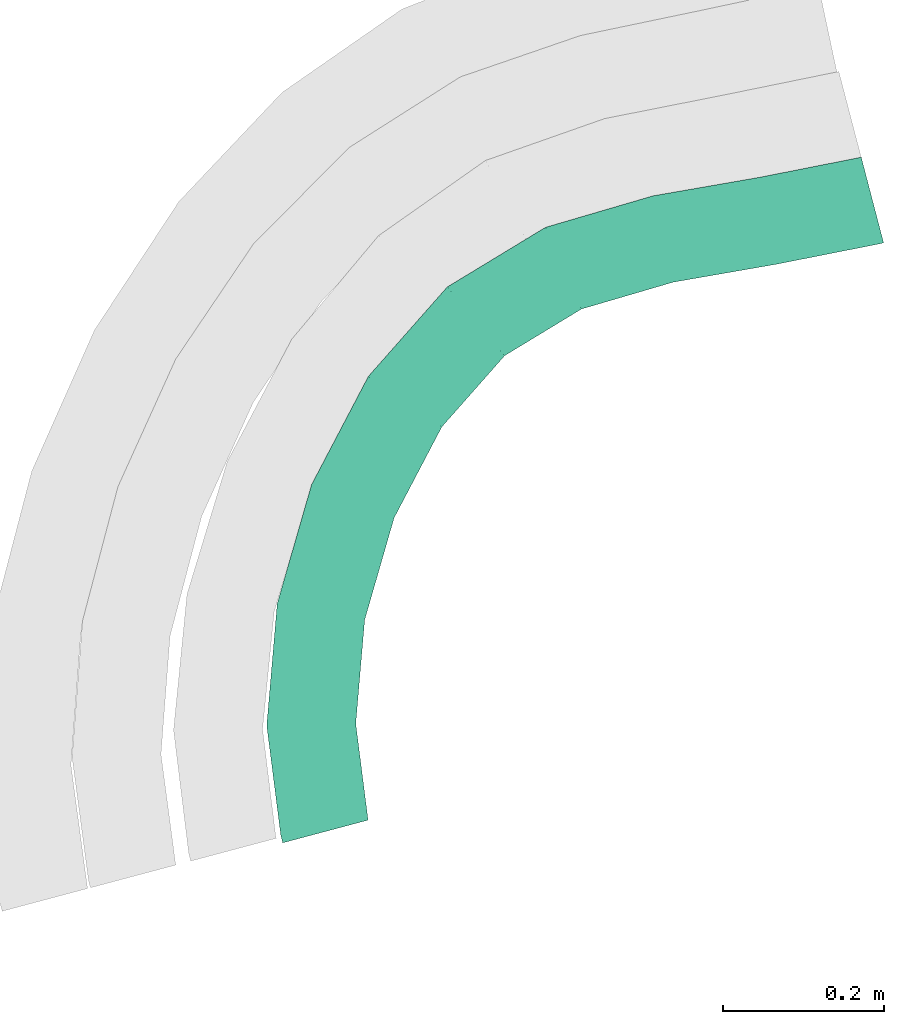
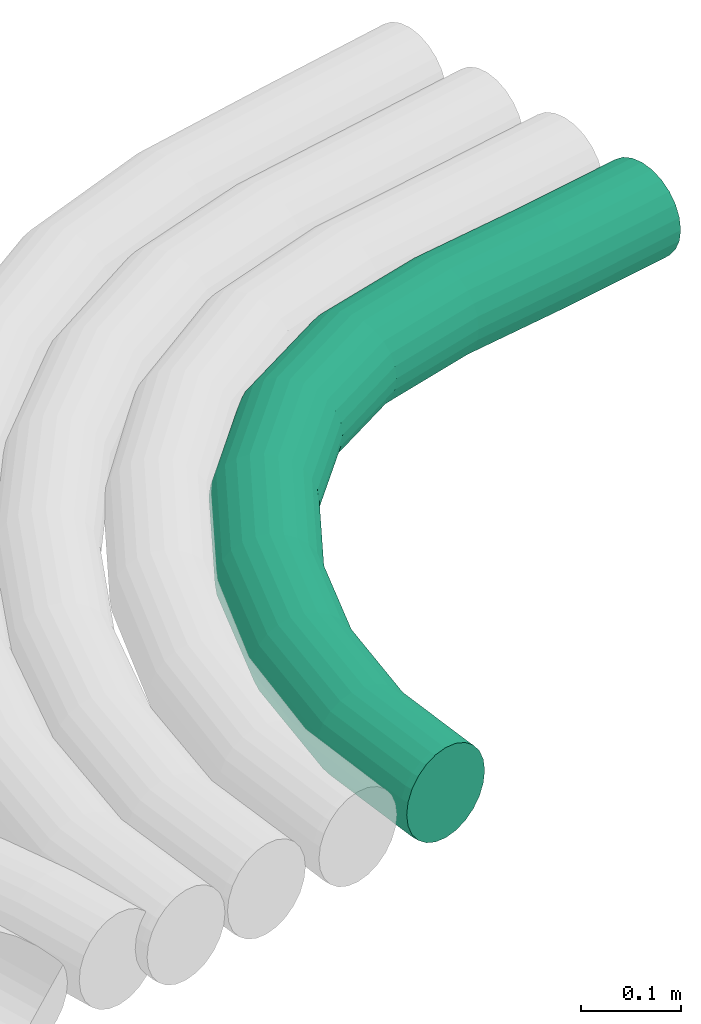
# One storey, part 3 of 6: 1 flow segment.
"""IFC2X3 building model written with IfcOpenShell, lengths in centimetres."""

from ifc_helpers import new_model, entity, si_unit, converted_unit, derived_unit, direction, frame, origin, place, context, subcontext, project, spatial, faceted_brep, type_object, element, save


model = new_model("IFC2X3")

# Units and contexts
model_context = context("Model", 3, precision=0.001, world=origin(), true_north=direction((6.12303176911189e-17, 1.0)))
body_context = subcontext(model_context, "Body", "Model", "MODEL_VIEW")
ifc_project = project(units=[si_unit("LENGTHUNIT", "METRE", prefix="CENTI"), si_unit("AREAUNIT", "SQUARE_METRE"), si_unit("VOLUMEUNIT", "CUBIC_METRE"), converted_unit("PLANEANGLEUNIT", "DEGREE", entity("IfcRatioMeasure", 0.0174532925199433), si_unit("PLANEANGLEUNIT", "RADIAN"), dimensions=[0, 0, 0, 0, 0, 0, 0]), si_unit("MASSUNIT", "GRAM", prefix="KILO"), derived_unit("MASSDENSITYUNIT", [(si_unit("MASSUNIT", "GRAM", prefix="KILO"), 1), (si_unit("LENGTHUNIT", "METRE"), -3)]), si_unit("TIMEUNIT", "SECOND"), si_unit("FREQUENCYUNIT", "HERTZ"), si_unit("THERMODYNAMICTEMPERATUREUNIT", "DEGREE_CELSIUS"), derived_unit("THERMALTRANSMITTANCEUNIT", [(si_unit("MASSUNIT", "GRAM", prefix="KILO"), 1), (si_unit("THERMODYNAMICTEMPERATUREUNIT", "KELVIN"), -1), (si_unit("TIMEUNIT", "SECOND"), -3)]), derived_unit("VOLUMETRICFLOWRATEUNIT", [(si_unit("LENGTHUNIT", "METRE"), 3), (si_unit("TIMEUNIT", "SECOND"), -1)]), si_unit("ELECTRICCURRENTUNIT", "AMPERE"), si_unit("ELECTRICVOLTAGEUNIT", "VOLT"), si_unit("POWERUNIT", "WATT"), si_unit("FORCEUNIT", "NEWTON"), si_unit("ILLUMINANCEUNIT", "LUX"), si_unit("LUMINOUSFLUXUNIT", "LUMEN"), si_unit("LUMINOUSINTENSITYUNIT", "CANDELA"), derived_unit("USERDEFINED", [(si_unit("MASSUNIT", "GRAM", prefix="KILO"), -1), (si_unit("LENGTHUNIT", "METRE"), -2), (si_unit("TIMEUNIT", "SECOND"), 3), (si_unit("LUMINOUSFLUXUNIT", "LUMEN"), 1)]), derived_unit("LINEARVELOCITYUNIT", [(si_unit("LENGTHUNIT", "METRE"), 1), (si_unit("TIMEUNIT", "SECOND"), -1)]), si_unit("PRESSUREUNIT", "PASCAL"), derived_unit("USERDEFINED", [(si_unit("LENGTHUNIT", "METRE"), -2), (si_unit("MASSUNIT", "GRAM", prefix="KILO"), 1), (si_unit("TIMEUNIT", "SECOND"), -2)])], contexts=[model_context])

# Site, building, storey
site_placement = place(None, origin())
site = spatial("IfcSite", under=ifc_project, at=site_placement, Name="Default", CompositionType="ELEMENT")
building_placement = place(site_placement, origin())
building = spatial("IfcBuilding", under=site, at=building_placement, Name="CAGE 03", CompositionType="ELEMENT")
storey_placement = place(building_placement, frame((0.0, 0.0, -23.0)))
storey = spatial("IfcBuildingStorey", under=building, at=storey_placement, Name="+3.77", CompositionType="ELEMENT", Elevation=-23.0000000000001)

# Flow segment
duct_segment_type = type_object("IfcDuctSegmentType", Name="Gaine flexible circulaire:Flex - Round", PredefinedType="FLEXIBLESEGMENT")
flow_segment_placement = place(storey_placement, frame((11614.6131749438, 3547.69453191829, -79.1595272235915)))
element("IfcFlowSegment", 1, at=flow_segment_placement, inside=storey, type_object=duct_segment_type, Name="Gaine flexible circulaire:Flex - Round", ObjectType="Gaine flexible circulaire:Flex - Round", context=body_context, shape_type="Brep", body=[
    faceted_brep([(3.70567363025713, 0.573686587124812, 9.54861452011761), (2.8610017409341, 0.348971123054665, 8.4095272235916), (2.33001879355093, 0.207709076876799, 7.08303197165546), (2.14891039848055, 0.15952722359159, 5.6595272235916), (2.33001879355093, 0.207709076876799, 4.23602247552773), (2.8610017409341, 0.348971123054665, 2.9095272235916), (3.70567363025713, 0.573686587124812, 1.77043992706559), (4.80647146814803, 0.866541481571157, 0.896387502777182), (6.0883777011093, 1.20757822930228, 0.346935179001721), (7.46403253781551, 1.57355573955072, 0.159527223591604), (8.83968737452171, 1.93953324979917, 0.346935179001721), (10.121593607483, 2.28056999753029, 0.896387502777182), (11.2223914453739, 2.57342489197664, 1.77043992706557), (12.0670633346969, 2.79814035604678, 2.90952722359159), (12.5980462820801, 2.93940240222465, 4.23602247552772), (12.7791546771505, 2.98758425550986, 5.65952722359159), (12.5980462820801, 2.93940240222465, 7.08303197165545), (12.0670633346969, 2.79814035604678, 8.40952722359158), (11.2223914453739, 2.57342489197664, 9.5486145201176), (10.121593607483, 2.28056999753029, 10.422666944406), (8.83968737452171, 1.93953324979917, 10.9721192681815), (7.46403253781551, 1.57355573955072, 11.1595272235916), (6.0883777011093, 1.20757822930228, 10.9721192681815), (4.80647146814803, 0.866541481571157, 10.422666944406), (1.90477102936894, 1.07721067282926, 5.6595272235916), (2.08908585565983, 1.1133400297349, 4.23602247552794), (2.62946958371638, 1.21926594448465, 2.90952722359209), (3.48909595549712, 1.38776974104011, 1.7704399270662), (4.60938285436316, 1.60736816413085, 0.896387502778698), (5.91398457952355, 1.86309594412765, 0.346935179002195), (7.31399467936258, 2.13752565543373, 0.159527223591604), (8.71400477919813, 2.41195536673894, 0.346935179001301), (10.0186065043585, 2.66768314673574, 0.896387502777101), (11.1388934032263, 2.88728156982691, 1.77043992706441), (12.5389035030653, 3.16171128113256, 4.23602247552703), (12.7232183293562, 3.19784063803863, 5.65952722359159), (11.9985197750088, 3.05578536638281, 2.9095272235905), (11.9985197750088, 3.05578536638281, 8.40952722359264), (11.1388934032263, 2.88728156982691, 9.54861452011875), (12.5389035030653, 3.16171128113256, 7.08303197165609), (8.71400477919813, 2.41195536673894, 10.9721192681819), (7.31399467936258, 2.13752565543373, 11.1595272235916), (10.0186065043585, 2.66768314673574, 10.4226669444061), (5.91398457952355, 1.86309594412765, 10.972119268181), (4.60938285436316, 1.60736816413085, 10.4226669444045), (3.48909595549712, 1.38776974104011, 9.54861452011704), (2.62946958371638, 1.21926594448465, 8.40952722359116), (2.08908585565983, 1.1133400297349, 7.08303197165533), (74.19928161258, 84.6336841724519, 8.4095272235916), (74.4201369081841, 83.7879947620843, 9.54861452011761), (74.7079611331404, 82.6858708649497, 10.422666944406), (75.0431395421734, 81.4024204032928, 10.9721192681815), (75.4028302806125, 80.0251084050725, 11.1595272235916), (75.7625210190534, 78.6477964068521, 10.9721192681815), (76.0976994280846, 77.3643459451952, 10.422666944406), (76.3855236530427, 76.2622220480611, 9.5486145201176), (76.6063789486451, 75.416532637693, 8.40952722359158), (76.7452143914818, 74.8849100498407, 7.08303197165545), (76.7925685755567, 74.7035834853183, 5.65952722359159), (76.7452143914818, 74.8849100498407, 4.23602247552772), (76.6063789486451, 75.416532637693, 2.90952722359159), (76.385523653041, 76.2622220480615, 1.77043992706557), (76.0976994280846, 77.3643459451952, 0.896387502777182), (75.7625210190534, 78.6477964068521, 0.346935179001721), (75.4028302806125, 80.0251084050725, 0.159527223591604), (75.0431395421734, 81.4024204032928, 0.346935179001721), (74.7079611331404, 82.6858708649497, 0.896387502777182), (74.4201369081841, 83.7879947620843, 1.77043992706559), (74.19928161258, 84.6336841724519, 2.9095272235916), (74.060446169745, 85.1653067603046, 4.23602247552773), (74.0130919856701, 85.346633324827, 5.6595272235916), (74.060446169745, 85.1653067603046, 7.08303197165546), (0.15952722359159, 14.732827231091, 5.6595272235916), (0.347960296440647, 14.7367334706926, 4.23602247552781), (0.900418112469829, 14.748185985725, 2.90952722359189), (1.77925158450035, 14.766404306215, 1.77043992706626), (2.92456966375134, 14.7901468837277, 0.896387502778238), (4.25832081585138, 14.8177957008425, 0.346935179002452), (5.68961210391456, 14.8474665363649, 0.159527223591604), (7.12090339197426, 14.8771373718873, 0.346935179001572), (8.45465454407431, 14.904786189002, 0.896387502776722), (9.59997262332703, 14.9285287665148, 1.77043992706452), (10.4788060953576, 14.9467470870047, 2.90952722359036), (11.0312639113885, 14.9581996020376, 4.23602247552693), (11.2196969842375, 14.9621058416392, 5.65952722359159), (11.0312639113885, 14.9581996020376, 7.08303197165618), (10.4788060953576, 14.9467470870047, 8.40952722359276), (9.59997262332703, 14.9285287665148, 9.54861452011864), (7.12090339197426, 14.8771373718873, 10.9721192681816), (5.68961210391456, 14.8474665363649, 11.1595272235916), (8.45465454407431, 14.904786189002, 10.4226669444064), (4.25832081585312, 14.8177957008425, 10.9721192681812), (2.92456966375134, 14.7901468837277, 10.422666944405), (1.77925158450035, 14.766404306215, 9.54861452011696), (0.900418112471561, 14.748185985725, 8.40952722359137), (0.347960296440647, 14.7367334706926, 7.08303197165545), (1.46025575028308, 29.8803276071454, 5.6595272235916), (1.64540651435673, 29.8460100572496, 4.23602247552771), (2.18824108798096, 29.7453960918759, 2.90952722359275), (3.05176619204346, 29.5853423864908, 1.77043992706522), (4.17713401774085, 29.3767563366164, 0.896387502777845), (5.48765260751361, 29.1338527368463, 0.346935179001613), (6.89401228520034, 28.8731850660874, 0.159527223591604), (8.30037196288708, 28.6125173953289, 0.346935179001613), (9.61089055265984, 28.3696137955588, 0.896387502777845), (10.7362583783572, 28.161027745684, 1.77043992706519), (11.599783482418, 28.0009740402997, 2.9095272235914), (12.142618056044, 27.9003600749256, 4.23602247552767), (12.3277688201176, 27.8660425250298, 5.65952722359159), (12.142618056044, 27.9003600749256, 7.08303197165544), (11.599783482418, 28.0009740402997, 8.40952722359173), (10.7362583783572, 28.161027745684, 9.54861452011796), (8.30037196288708, 28.6125173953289, 10.9721192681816), (6.89401228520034, 28.8731850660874, 11.1595272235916), (9.61089055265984, 28.3696137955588, 10.4226669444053), (5.48765260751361, 29.1338527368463, 10.9721192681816), (4.17713401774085, 29.3767563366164, 10.4226669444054), (3.05176619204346, 29.5853423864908, 9.54861452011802), (2.18824108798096, 29.7453960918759, 8.40952722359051), (1.64540651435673, 29.8460100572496, 7.08303197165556), (5.72445590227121, 44.6606461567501, 5.6595272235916), (5.8992478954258, 44.5904236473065, 4.23602247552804), (6.41171208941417, 44.3845416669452, 2.90952722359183), (7.22692489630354, 44.0570307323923, 1.77043992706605), (8.28933091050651, 43.6302101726, 0.896387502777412), (9.52652891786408, 43.1331671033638, 0.346935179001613), (10.8542059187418, 42.59977418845, 0.159527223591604), (12.1818829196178, 42.0663812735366, 0.346935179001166), (13.4190809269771, 41.5693382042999, 0.896387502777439), (14.4814869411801, 41.1425176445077, 1.77043992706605), (15.2966997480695, 40.8150067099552, 2.90952722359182), (15.8091639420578, 40.6091247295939, 4.23602247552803), (15.9839559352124, 40.5389022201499, 5.65952722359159), (15.8091639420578, 40.6091247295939, 7.08303197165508), (15.2966997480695, 40.8150067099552, 8.4095272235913), (14.4814869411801, 41.1425176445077, 9.54861452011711), (12.1818829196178, 42.0663812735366, 10.972119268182), (10.8542059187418, 42.59977418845, 11.1595272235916), (13.4190809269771, 41.5693382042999, 10.4226669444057), (9.52652891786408, 43.1331671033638, 10.9721192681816), (8.28933091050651, 43.6302101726, 10.4226669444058), (7.22692489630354, 44.0570307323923, 9.54861452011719), (6.41171208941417, 44.3845416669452, 8.40952722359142), (5.8992478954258, 44.5904236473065, 7.08303197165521), (12.7846474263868, 58.1183943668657, 5.6595272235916), (12.9401114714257, 58.0113299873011, 4.23602247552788), (13.3959089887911, 57.6974331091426, 2.90952722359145), (14.1209781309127, 57.1980952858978, 1.7704399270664), (15.0659066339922, 56.5473455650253, 0.896387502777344), (16.1662991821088, 55.7895314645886, 0.346935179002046), (17.3471658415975, 54.9762967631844, 0.159527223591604), (18.5280325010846, 54.1630620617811, 0.346935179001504), (19.6284250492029, 53.405247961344, 0.896387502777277), (20.5733535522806, 52.7544982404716, 1.77043992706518), (21.298422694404, 52.2551604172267, 2.90952722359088), (21.7542202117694, 51.9412635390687, 4.2360224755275), (21.9096842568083, 51.8341991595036, 5.65952722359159), (21.7542202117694, 51.9412635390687, 7.08303197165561), (21.298422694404, 52.2551604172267, 8.40952722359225), (20.5733535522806, 52.7544982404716, 9.54861452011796), (18.5280325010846, 54.1630620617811, 10.9721192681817), (17.3471658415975, 54.9762967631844, 11.1595272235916), (19.6284250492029, 53.405247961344, 10.4226669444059), (16.1662991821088, 55.7895314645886, 10.9721192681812), (15.0659066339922, 56.5473455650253, 10.4226669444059), (14.1209781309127, 57.1980952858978, 9.54861452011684), (13.3959089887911, 57.6974331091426, 8.4095272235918), (12.9401114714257, 58.0113299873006, 7.08303197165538), (22.5801587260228, 69.2190019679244, 5.6595272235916), (22.70179351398, 69.0736011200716, 4.23602247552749), (23.0584086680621, 68.647307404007, 2.90952722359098), (23.6257014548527, 67.9691720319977, 1.77043992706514), (24.365011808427, 67.0854088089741, 0.896387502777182), (25.2259569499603, 66.0562447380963, 0.346935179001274), (26.1498648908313, 64.9518156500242, 0.159527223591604), (27.073772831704, 63.8473865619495, 0.346935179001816), (27.9347179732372, 62.8182224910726, 0.896387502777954), (28.6740283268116, 61.9344592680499, 1.77043992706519), (29.2413211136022, 61.2563238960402, 2.90952722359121), (29.5979362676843, 60.830030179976, 4.23602247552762), (29.7195710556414, 60.6846293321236, 5.65952722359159), (29.5979362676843, 60.830030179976, 7.08303197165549), (29.2413211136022, 61.2563238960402, 8.40952722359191), (28.6740283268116, 61.9344592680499, 9.54861452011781), (27.073772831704, 63.8473865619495, 10.9721192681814), (26.1498648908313, 64.9518156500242, 11.1595272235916), (27.9347179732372, 62.8182224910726, 10.4226669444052), (25.2259569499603, 66.0562447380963, 10.9721192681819), (24.365011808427, 67.0854088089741, 10.422666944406), (23.6257014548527, 67.9691720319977, 9.54861452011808), (23.0584086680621, 68.647307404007, 8.40952722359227), (22.70179351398, 69.0736011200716, 7.08303197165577), (34.7849470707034, 76.6263182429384, 5.6595272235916), (34.8611797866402, 76.4533620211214, 4.23602247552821), (35.0846828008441, 75.946280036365, 2.90952722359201), (35.4402247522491, 75.1396290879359, 1.77043992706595), (35.9035760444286, 74.0883811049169, 0.89638750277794), (36.4431600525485, 72.8641769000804, 0.346935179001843), (37.0222050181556, 71.5504439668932, 0.159527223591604), (37.6012499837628, 70.236711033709, 0.346935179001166), (38.1408339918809, 69.0125068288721, 0.896387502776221), (38.6041852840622, 67.9612588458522, 1.77043992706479), (38.9597272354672, 67.1546078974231, 2.90952722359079), (39.1832302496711, 66.6475259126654, 4.23602247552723), (39.2594629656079, 66.4745696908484, 5.65952722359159), (39.1832302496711, 66.6475259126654, 7.08303197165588), (38.9597272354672, 67.1546078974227, 8.40952722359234), (38.6041852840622, 67.9612588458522, 9.54861452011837), (37.6012499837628, 70.236711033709, 10.972119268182), (37.0222050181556, 71.5504439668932, 11.1595272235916), (38.1408339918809, 69.0125068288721, 10.4226669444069), (36.4431600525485, 72.8641769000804, 10.9721192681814), (35.9035760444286, 74.0883811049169, 10.4226669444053), (35.4402247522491, 75.1396290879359, 9.54861452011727), (35.0846828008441, 75.946280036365, 8.40952722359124), (34.8611797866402, 76.4533620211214, 7.08303197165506), (48.162529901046, 80.5427276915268, 5.6595272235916), (48.2050368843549, 80.3598979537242, 4.23602247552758), (48.3296610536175, 79.8238682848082, 2.90952722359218), (48.5279094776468, 78.9711682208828, 1.77043992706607), (48.7862718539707, 77.8599078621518, 0.896387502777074), (49.0871412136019, 76.5658177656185, 0.346935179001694), (49.4100138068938, 75.1770880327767, 0.159527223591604), (49.7328864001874, 73.7883582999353, 0.346935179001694), (50.0337557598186, 72.494268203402, 0.896387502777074), (50.2921181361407, 71.383007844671, 1.77043992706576), (50.4903665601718, 70.5303077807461, 2.90952722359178), (50.6149907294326, 69.9942781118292, 4.23602247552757), (50.6574977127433, 69.811448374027, 5.65952722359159), (50.6149907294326, 69.9942781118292, 7.08303197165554), (50.4903665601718, 70.5303077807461, 8.40952722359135), (50.2921181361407, 71.383007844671, 9.54861452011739), (49.7328864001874, 73.7883582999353, 10.9721192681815), (49.4100138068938, 75.1770880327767, 11.1595272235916), (50.0337557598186, 72.494268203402, 10.4226669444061), (49.0871412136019, 76.5658177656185, 10.9721192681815), (48.7862718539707, 77.8599078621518, 10.4226669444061), (48.5279094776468, 78.9711682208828, 9.54861452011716), (48.3296610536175, 79.8238682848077, 8.40952722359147), (48.2050368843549, 80.3598979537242, 7.08303197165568), (61.5127984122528, 82.6726716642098, 4.23602247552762), (61.6131754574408, 82.1324280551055, 2.9095272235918), (61.4785616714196, 82.8569386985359, 5.6595272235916), (61.7728522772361, 81.273024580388, 1.77043992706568), (62.2232787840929, 78.8487647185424, 0.346935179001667), (62.4833326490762, 77.4491176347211, 0.159527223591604), (61.9809471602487, 80.1530281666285, 0.896387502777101), (62.7433865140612, 76.0494705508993, 0.346935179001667), (62.9857181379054, 74.7452071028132, 0.896387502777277), (63.193813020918, 73.6252106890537, 1.77043992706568), (63.3534898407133, 72.7658072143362, 2.90952722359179), (63.4538668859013, 72.2255636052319, 4.23602247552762), (63.4881036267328, 72.0412965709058, 5.65952722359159), (63.4538668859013, 72.2255636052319, 7.08303197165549), (63.3534898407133, 72.7658072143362, 8.40952722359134), (63.193813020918, 73.6252106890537, 9.54861452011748), (62.9857181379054, 74.7452071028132, 10.4226669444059), (62.7433865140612, 76.0494705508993, 10.9721192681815), (62.4833326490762, 77.4491176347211, 11.1595272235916), (62.2232787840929, 78.8487647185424, 10.9721192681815), (61.9809471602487, 80.1530281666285, 10.4226669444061), (61.7728522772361, 81.273024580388, 9.54861452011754), (61.6131754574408, 82.1324280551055, 8.40952722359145), (61.5127984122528, 82.6726716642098, 7.08303197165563), (73.9031005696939, 85.124215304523, 4.23602247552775), (74.0259527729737, 84.5884186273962, 2.9095272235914), (73.8611979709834, 85.3069655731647, 5.6595272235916), (74.2213824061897, 83.7360891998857, 1.77043992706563), (74.7726627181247, 81.331784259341, 0.346935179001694), (75.0909445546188, 79.9436581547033, 0.159527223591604), (74.4760712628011, 82.6253118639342, 0.896387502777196), (75.4092263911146, 78.5555320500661, 0.346935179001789), (75.7058178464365, 77.2620044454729, 0.896387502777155), (75.9605067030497, 76.1512271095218, 1.77043992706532), (76.1559363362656, 75.2988976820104, 2.90952722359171), (76.2787885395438, 74.7631010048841, 4.23602247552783), (76.320691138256, 74.5803507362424, 5.65952722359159), (76.2787885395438, 74.7631010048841, 7.08303197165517), (76.1559363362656, 75.2988976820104, 8.40952722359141), (75.9605067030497, 76.1512271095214, 9.54861452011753), (75.7058178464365, 77.2620044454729, 10.422666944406), (75.4092263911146, 78.5555320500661, 10.9721192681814), (75.0909445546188, 79.9436581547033, 11.1595272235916), (74.7726627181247, 81.3317842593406, 10.9721192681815), (74.4760712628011, 82.6253118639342, 10.422666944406), (74.2213824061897, 83.7360891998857, 9.5486145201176), (74.0259527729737, 84.5884186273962, 8.40952722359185), (73.9031005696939, 85.124215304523, 7.08303197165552)], [[[0, 1, 2, 3, 4, 5, 6, 7, 8, 9, 10, 11, 12, 13, 14, 15, 16, 17, 18, 19, 20, 21, 22, 23]], [[3, 24, 25, 4]], [[4, 25, 26, 5]], [[5, 26, 27, 6]], [[7, 28, 29, 8]], [[8, 29, 30, 9]], [[6, 27, 28, 7]], [[31, 32, 11, 10]], [[30, 31, 10, 9]], [[11, 32, 33, 12]], [[34, 35, 15, 14]], [[36, 34, 14, 13]], [[12, 33, 36, 13]], [[17, 37, 38, 18]], [[39, 37, 17, 16]], [[15, 35, 39, 16]], [[40, 41, 21, 20]], [[42, 40, 20, 19]], [[38, 42, 19, 18]], [[23, 22, 43, 44]], [[0, 23, 44, 45]], [[21, 41, 43, 22]], [[2, 1, 46, 47]], [[3, 2, 47, 24]], [[45, 46, 1, 0]], [[48, 49, 50, 51, 52, 53, 54, 55, 56, 57, 58, 59, 60, 61, 62, 63, 64, 65, 66, 67, 68, 69, 70, 71]], [[24, 72, 73, 25]], [[25, 73, 74, 26]], [[26, 74, 75, 27]], [[27, 75, 76, 28]], [[28, 76, 77, 29]], [[78, 30, 29, 77]], [[79, 80, 32, 31]], [[78, 79, 31, 30]], [[81, 33, 32, 80]], [[82, 83, 34, 36]], [[82, 36, 33, 81]], [[84, 35, 34, 83]], [[85, 86, 37, 39]], [[84, 85, 39, 35]], [[38, 37, 86, 87]], [[88, 89, 41, 40]], [[90, 88, 40, 42]], [[87, 90, 42, 38]], [[43, 41, 89, 91]], [[44, 43, 91, 92]], [[45, 44, 92, 93]], [[47, 46, 94, 95]], [[24, 47, 95, 72]], [[93, 94, 46, 45]], [[73, 72, 96, 97]], [[74, 73, 97, 98]], [[98, 99, 75, 74]], [[76, 75, 99, 100]], [[77, 76, 100, 101]], [[78, 77, 101, 102]], [[103, 104, 80, 79]], [[102, 103, 79, 78]], [[81, 80, 104, 105]], [[106, 107, 83, 82]], [[105, 106, 82, 81]], [[84, 83, 107, 108]], [[109, 110, 86, 85]], [[108, 109, 85, 84]], [[111, 87, 86, 110]], [[112, 113, 89, 88]], [[114, 112, 88, 90]], [[114, 90, 87, 111]], [[89, 113, 115, 91]], [[91, 115, 116, 92]], [[117, 93, 92, 116]], [[94, 118, 119, 95]], [[95, 119, 96, 72]], [[118, 94, 93, 117]], [[96, 120, 121, 97]], [[97, 121, 122, 98]], [[98, 122, 123, 99]], [[99, 123, 124, 100]], [[100, 124, 125, 101]], [[126, 102, 101, 125]], [[127, 128, 104, 103]], [[126, 127, 103, 102]], [[129, 105, 104, 128]], [[130, 131, 107, 106]], [[130, 106, 105, 129]], [[132, 108, 107, 131]], [[133, 134, 110, 109]], [[132, 133, 109, 108]], [[111, 110, 134, 135]], [[136, 137, 113, 112]], [[138, 136, 112, 114]], [[135, 138, 114, 111]], [[115, 113, 137, 139]], [[116, 115, 139, 140]], [[117, 116, 140, 141]], [[119, 118, 142, 143]], [[96, 119, 143, 120]], [[141, 142, 118, 117]], [[120, 144, 145, 121]], [[121, 145, 146, 122]], [[122, 146, 147, 123]], [[123, 147, 148, 124]], [[124, 148, 149, 125]], [[150, 126, 125, 149]], [[151, 152, 128, 127]], [[150, 151, 127, 126]], [[153, 129, 128, 152]], [[154, 155, 131, 130]], [[154, 130, 129, 153]], [[156, 132, 131, 155]], [[157, 158, 134, 133]], [[156, 157, 133, 132]], [[135, 134, 158, 159]], [[160, 161, 137, 136]], [[162, 160, 136, 138]], [[159, 162, 138, 135]], [[139, 137, 161, 163]], [[140, 139, 163, 164]], [[141, 140, 164, 165]], [[143, 142, 166, 167]], [[120, 143, 167, 144]], [[165, 166, 142, 141]], [[144, 168, 169, 145]], [[145, 169, 170, 146]], [[146, 170, 171, 147]], [[147, 171, 172, 148]], [[148, 172, 173, 149]], [[174, 150, 149, 173]], [[175, 176, 152, 151]], [[174, 175, 151, 150]], [[177, 153, 152, 176]], [[178, 179, 155, 154]], [[178, 154, 153, 177]], [[180, 156, 155, 179]], [[181, 182, 158, 157]], [[180, 181, 157, 156]], [[159, 158, 182, 183]], [[184, 185, 161, 160]], [[186, 184, 160, 162]], [[183, 186, 162, 159]], [[163, 161, 185, 187]], [[164, 163, 187, 188]], [[165, 164, 188, 189]], [[167, 166, 190, 191]], [[144, 167, 191, 168]], [[189, 190, 166, 165]], [[169, 168, 192, 193]], [[170, 169, 193, 194]], [[194, 195, 171, 170]], [[172, 171, 195, 196]], [[173, 172, 196, 197]], [[174, 173, 197, 198]], [[199, 200, 176, 175]], [[198, 199, 175, 174]], [[177, 176, 200, 201]], [[202, 203, 179, 178]], [[201, 202, 178, 177]], [[180, 179, 203, 204]], [[205, 206, 182, 181]], [[204, 205, 181, 180]], [[207, 183, 182, 206]], [[208, 209, 185, 184]], [[210, 208, 184, 186]], [[210, 186, 183, 207]], [[185, 209, 211, 187]], [[187, 211, 212, 188]], [[213, 189, 188, 212]], [[190, 214, 215, 191]], [[191, 215, 192, 168]], [[214, 190, 189, 213]], [[193, 192, 216, 217]], [[194, 193, 217, 218]], [[218, 219, 195, 194]], [[196, 195, 219, 220]], [[197, 196, 220, 221]], [[198, 197, 221, 222]], [[223, 224, 200, 199]], [[222, 223, 199, 198]], [[201, 200, 224, 225]], [[226, 227, 203, 202]], [[225, 226, 202, 201]], [[204, 203, 227, 228]], [[229, 230, 206, 205]], [[228, 229, 205, 204]], [[231, 207, 206, 230]], [[232, 233, 209, 208]], [[234, 232, 208, 210]], [[234, 210, 207, 231]], [[209, 233, 235, 211]], [[211, 235, 236, 212]], [[237, 213, 212, 236]], [[214, 238, 239, 215]], [[215, 239, 216, 192]], [[238, 214, 213, 237]], [[240, 241, 218, 217]], [[242, 240, 217, 216]], [[241, 243, 219, 218]], [[244, 245, 222, 221]], [[246, 244, 221, 220]], [[243, 246, 220, 219]], [[223, 222, 245, 247]], [[224, 223, 247, 248]], [[225, 224, 248, 249]], [[227, 226, 250, 251]], [[228, 227, 251, 252]], [[249, 250, 226, 225]], [[228, 252, 253, 229]], [[229, 253, 254, 230]], [[255, 231, 230, 254]], [[231, 255, 256, 234]], [[234, 256, 257, 232]], [[258, 233, 232, 257]], [[259, 260, 236, 235]], [[258, 259, 235, 233]], [[261, 237, 236, 260]], [[262, 263, 239, 238]], [[262, 238, 237, 261]], [[242, 216, 239, 263]], [[264, 265, 241, 240]], [[266, 264, 240, 242]], [[243, 241, 265, 267]], [[268, 269, 245, 244]], [[270, 268, 244, 246]], [[267, 270, 246, 243]], [[247, 245, 269, 271]], [[248, 247, 271, 272]], [[249, 248, 272, 273]], [[251, 250, 274, 275]], [[252, 251, 275, 276]], [[273, 274, 250, 249]], [[252, 276, 277, 253]], [[253, 277, 278, 254]], [[254, 278, 279, 255]], [[255, 279, 280, 256]], [[256, 280, 281, 257]], [[282, 258, 257, 281]], [[283, 284, 260, 259]], [[282, 283, 259, 258]], [[285, 261, 260, 284]], [[286, 287, 263, 262]], [[286, 262, 261, 285]], [[266, 242, 263, 287]], [[266, 70, 69, 264]], [[264, 69, 68, 265]], [[265, 68, 67, 267]], [[270, 66, 65, 268]], [[268, 65, 64, 269]], [[270, 267, 67, 66]], [[269, 64, 63, 271]], [[271, 63, 62, 272]], [[272, 62, 61, 273]], [[274, 60, 59, 275]], [[275, 59, 58, 276]], [[273, 61, 60, 274]], [[277, 276, 58, 57]], [[278, 277, 57, 56]], [[279, 278, 56, 55]], [[281, 280, 54, 53]], [[282, 281, 53, 52]], [[55, 54, 280, 279]], [[283, 282, 52, 51]], [[284, 283, 51, 50]], [[285, 284, 50, 49]], [[287, 286, 48, 71]], [[266, 287, 71, 70]], [[285, 49, 48, 286]]]),
])

save(model, "model.ifc")
